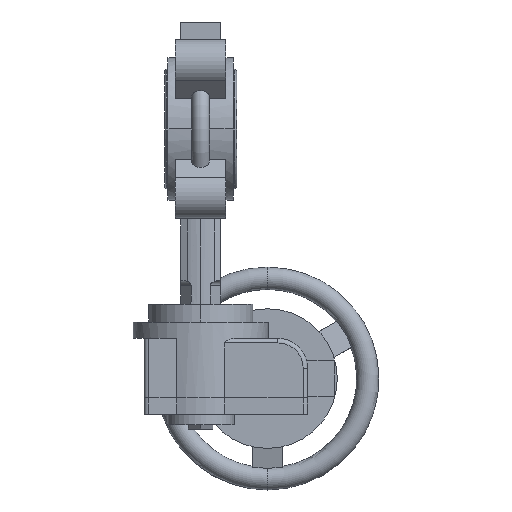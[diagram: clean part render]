
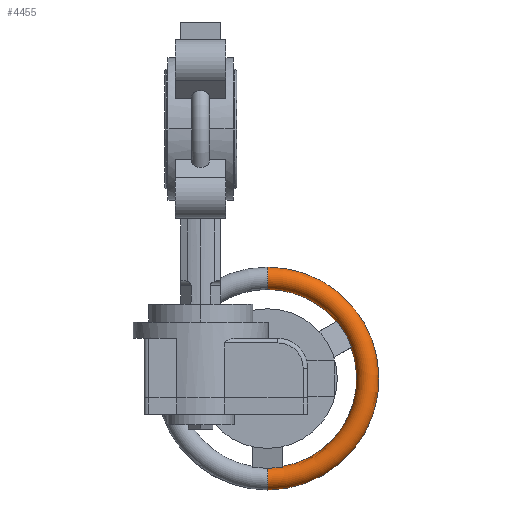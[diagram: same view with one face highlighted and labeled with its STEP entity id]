
A CAD part, left-side view. The second image highlights one B-rep face of the part: STEP entity #4455.
In plain terms, the highlighted toroidal (fillet/blend) face has major radius 67.5 mm and minor radius 7.5 mm.
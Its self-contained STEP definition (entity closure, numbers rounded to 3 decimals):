
#93 = VERTEX_POINT ( 'NONE', #6728 ) ;
#221 = EDGE_CURVE ( 'NONE', #7875, #3784, #7050, .T. ) ;
#299 = CARTESIAN_POINT ( 'NONE',  ( -162.5, 62., 28. ) ) ;
#467 = ORIENTED_EDGE ( 'NONE', *, *, #4861, .F. ) ;
#554 = B_SPLINE_CURVE_WITH_KNOTS ( 'NONE', 3,
 ( #6019, #3702, #7478, #8991, #8895, #2196, #9047, #3497 ),
 .UNSPECIFIED., .F., .F.,
 ( 4, 2, 2, 4 ),
 ( 0.047, 0.048, 0.048, 0.05 ),
 .UNSPECIFIED. ) ;
#570 = EDGE_CURVE ( 'NONE', #641, #93, #554, .T. ) ;
#600 = CARTESIAN_POINT ( 'NONE',  ( -159.729, 46.699, 38. ) ) ;
#641 = VERTEX_POINT ( 'NONE', #9852 ) ;
#767 = B_SPLINE_CURVE_WITH_KNOTS ( 'NONE', 3,
 ( #600, #9826, #3771, #3668 ),
 .UNSPECIFIED., .F., .F.,
 ( 4, 4 ),
 ( 0., 0.01 ),
 .UNSPECIFIED. ) ;
#940 = CARTESIAN_POINT ( 'NONE',  ( -161.552, -51.269, 74.284 ) ) ;
#1025 = CARTESIAN_POINT ( 'NONE',  ( -159.793, -35.752, 84.09 ) ) ;
#1196 = CARTESIAN_POINT ( 'NONE',  ( -159.921, 47.457, 28. ) ) ;
#1316 = CARTESIAN_POINT ( 'NONE',  ( -159.729, 46.699, 38. ) ) ;
#1629 = ORIENTED_EDGE ( 'NONE', *, *, #2030, .T. ) ;
#1738 = CARTESIAN_POINT ( 'NONE',  ( -159.921, -41.797, 81.185 ) ) ;
#1863 = DIRECTION ( 'NONE',  ( -1., 0., 0. ) ) ;
#1926 = DIRECTION ( 'NONE',  ( 0., -1., 0. ) ) ;
#2007 = ORIENTED_EDGE ( 'NONE', *, *, #6447, .T. ) ;
#2030 = EDGE_CURVE ( 'NONE', #4986, #5842, #6500, .T. ) ;
#2196 = CARTESIAN_POINT ( 'NONE',  ( -160.626, -34.033, 84.43 ) ) ;
#2488 = ORIENTED_EDGE ( 'NONE', *, *, #8795, .T. ) ;
#2595 = CARTESIAN_POINT ( 'NONE',  ( -161.319, 46.252, 38. ) ) ;
#2786 = CARTESIAN_POINT ( 'NONE',  ( -162.5, -13., 28. ) ) ;
#2829 = DIRECTION ( 'NONE',  ( 0., -1., 0. ) ) ;
#2919 = EDGE_CURVE ( 'NONE', #641, #4986, #3797, .T. ) ;
#2964 = CARTESIAN_POINT ( 'NONE',  ( -162.023, -51.246, 74.245 ) ) ;
#2989 = CIRCLE ( 'NONE', #4908, 75. ) ;
#3030 = AXIS2_PLACEMENT_3D ( 'NONE', #8920, #5614, #2829 ) ;
#3146 = TOROIDAL_SURFACE ( 'NONE', #8771, 67.5, 7.5 ) ;
#3389 = DIRECTION ( 'NONE',  ( -1., 0., 0. ) ) ;
#3443 = CARTESIAN_POINT ( 'NONE',  ( -162.023, 46.172, 38. ) ) ;
#3497 = CARTESIAN_POINT ( 'NONE',  ( -159.729, -34.189, 84.701 ) ) ;
#3498 = CIRCLE ( 'NONE', #9138, 7.5 ) ;
#3663 = CARTESIAN_POINT ( 'NONE',  ( -162.5, 46.161, 38. ) ) ;
#3668 = CARTESIAN_POINT ( 'NONE',  ( -159.921, 47.457, 28. ) ) ;
#3702 = CARTESIAN_POINT ( 'NONE',  ( -162.262, -33.92, 84.235 ) ) ;
#3771 = CARTESIAN_POINT ( 'NONE',  ( -159.921, 47.457, 31.343 ) ) ;
#3784 = VERTEX_POINT ( 'NONE', #7586 ) ;
#3797 = CIRCLE ( 'NONE', #8628, 60. ) ;
#4050 = CARTESIAN_POINT ( 'NONE',  ( -159.921, -46.133, 78.68 ) ) ;
#4455 = ADVANCED_FACE ( 'NONE', ( #8825 ), #3146, .T. ) ;
#4607 = CARTESIAN_POINT ( 'NONE',  ( -161.319, -51.286, 74.314 ) ) ;
#4801 = CARTESIAN_POINT ( 'NONE',  ( -159.905, -40.318, 81.966 ) ) ;
#4839 = VERTEX_POINT ( 'NONE', #1196 ) ;
#4854 = CARTESIAN_POINT ( 'NONE',  ( -162.262, 46.161, 38. ) ) ;
#4861 = EDGE_CURVE ( 'NONE', #5364, #8141, #2989, .T. ) ;
#4908 = AXIS2_PLACEMENT_3D ( 'NONE', #7196, #1863, #7997 ) ;
#4986 = VERTEX_POINT ( 'NONE', #3663 ) ;
#5003 = ORIENTED_EDGE ( 'NONE', *, *, #6712, .T. ) ;
#5171 = DIRECTION ( 'NONE',  ( -1., 0., 0. ) ) ;
#5219 = CARTESIAN_POINT ( 'NONE',  ( -162.5, -13., 28. ) ) ;
#5223 = ORIENTED_EDGE ( 'NONE', *, *, #7328, .T. ) ;
#5267 = DIRECTION ( 'NONE',  ( 0., -1., 0. ) ) ;
#5364 = VERTEX_POINT ( 'NONE', #8948 ) ;
#5425 = CARTESIAN_POINT ( 'NONE',  ( -159.729, -51.51, 74.701 ) ) ;
#5614 = DIRECTION ( 'NONE',  ( -1., 0., 0. ) ) ;
#5672 = ORIENTED_EDGE ( 'NONE', *, *, #570, .F. ) ;
#5758 = CARTESIAN_POINT ( 'NONE',  ( -159.729, 46.699, 38. ) ) ;
#5842 = VERTEX_POINT ( 'NONE', #1316 ) ;
#5984 = CARTESIAN_POINT ( 'NONE',  ( -162.262, -51.241, 74.235 ) ) ;
#6019 = CARTESIAN_POINT ( 'NONE',  ( -162.5, -33.92, 84.235 ) ) ;
#6021 = CARTESIAN_POINT ( 'NONE',  ( -162.5, -73., 28. ) ) ;
#6214 = CARTESIAN_POINT ( 'NONE',  ( -159.841, -37.291, 83.421 ) ) ;
#6244 = CIRCLE ( 'NONE', #3030, 60. ) ;
#6367 = CARTESIAN_POINT ( 'NONE',  ( -162.5, 46.161, 38. ) ) ;
#6447 = EDGE_CURVE ( 'NONE', #4839, #8141, #3498, .T. ) ;
#6451 = DIRECTION ( 'NONE',  ( 0., -1., 0. ) ) ;
#6500 = B_SPLINE_CURVE_WITH_KNOTS ( 'NONE', 3,
 ( #6367, #4854, #3443, #9442, #2595, #6516, #7928, #5758 ),
 .UNSPECIFIED., .F., .F.,
 ( 4, 2, 2, 4 ),
 ( 0.047, 0.048, 0.048, 0.05 ),
 .UNSPECIFIED. ) ;
#6516 = CARTESIAN_POINT ( 'NONE',  ( -160.626, 46.387, 38. ) ) ;
#6595 = DIRECTION ( 'NONE',  ( 0., 0., 1. ) ) ;
#6712 = EDGE_CURVE ( 'NONE', #5842, #4839, #767, .T. ) ;
#6728 = CARTESIAN_POINT ( 'NONE',  ( -159.729, -34.189, 84.701 ) ) ;
#7020 = CARTESIAN_POINT ( 'NONE',  ( -159.857, -48.888, 76.797 ) ) ;
#7050 = B_SPLINE_CURVE_WITH_KNOTS ( 'NONE', 3,
 ( #9811, #5984, #2964, #940, #4607, #8445, #9305, #5425 ),
 .UNSPECIFIED., .F., .F.,
 ( 4, 2, 2, 4 ),
 ( 0.047, 0.048, 0.048, 0.05 ),
 .UNSPECIFIED. ) ;
#7196 = CARTESIAN_POINT ( 'NONE',  ( -162.5, -13., 28. ) ) ;
#7328 = EDGE_CURVE ( 'NONE', #3784, #93, #8220, .T. ) ;
#7478 = CARTESIAN_POINT ( 'NONE',  ( -162.023, -33.926, 84.245 ) ) ;
#7586 = CARTESIAN_POINT ( 'NONE',  ( -159.729, -51.51, 74.701 ) ) ;
#7702 = CARTESIAN_POINT ( 'NONE',  ( -162.5, -51.241, 74.235 ) ) ;
#7860 = ORIENTED_EDGE ( 'NONE', *, *, #221, .T. ) ;
#7875 = VERTEX_POINT ( 'NONE', #7702 ) ;
#7877 = CARTESIAN_POINT ( 'NONE',  ( -159.729, -34.189, 84.701 ) ) ;
#7928 = CARTESIAN_POINT ( 'NONE',  ( -160.171, 46.521, 38. ) ) ;
#7997 = DIRECTION ( 'NONE',  ( 0., -1., 0. ) ) ;
#8065 = ORIENTED_EDGE ( 'NONE', *, *, #2919, .T. ) ;
#8141 = VERTEX_POINT ( 'NONE', #299 ) ;
#8170 = AXIS2_PLACEMENT_3D ( 'NONE', #9922, #9074, #9026 ) ;
#8220 = B_SPLINE_CURVE_WITH_KNOTS ( 'NONE', 3,
 ( #8686, #7020, #4050, #1738, #4801, #6214, #1025, #7877 ),
 .UNSPECIFIED., .F., .F.,
 ( 4, 2, 2, 4 ),
 ( 0., 0.01, 0.015, 0.02 ),
 .UNSPECIFIED. ) ;
#8445 = CARTESIAN_POINT ( 'NONE',  ( -160.626, -51.354, 74.43 ) ) ;
#8599 = VERTEX_POINT ( 'NONE', #6021 ) ;
#8628 = AXIS2_PLACEMENT_3D ( 'NONE', #5219, #5171, #5267 ) ;
#8657 = CIRCLE ( 'NONE', #8170, 7.5 ) ;
#8686 = CARTESIAN_POINT ( 'NONE',  ( -159.729, -51.51, 74.701 ) ) ;
#8771 = AXIS2_PLACEMENT_3D ( 'NONE', #2786, #3389, #1926 ) ;
#8795 = EDGE_CURVE ( 'NONE', #8599, #7875, #6244, .T. ) ;
#8825 = FACE_OUTER_BOUND ( 'NONE', #9113, .T. ) ;
#8842 = ORIENTED_EDGE ( 'NONE', *, *, #8868, .F. ) ;
#8868 = EDGE_CURVE ( 'NONE', #8599, #5364, #8657, .T. ) ;
#8895 = CARTESIAN_POINT ( 'NONE',  ( -161.319, -33.966, 84.314 ) ) ;
#8920 = CARTESIAN_POINT ( 'NONE',  ( -162.5, -13., 28. ) ) ;
#8948 = CARTESIAN_POINT ( 'NONE',  ( -162.5, -88., 28. ) ) ;
#8991 = CARTESIAN_POINT ( 'NONE',  ( -161.552, -33.949, 84.284 ) ) ;
#9026 = DIRECTION ( 'NONE',  ( -1., 0., 0. ) ) ;
#9047 = CARTESIAN_POINT ( 'NONE',  ( -160.171, -34.1, 84.547 ) ) ;
#9074 = DIRECTION ( 'NONE',  ( 0., 0., -1. ) ) ;
#9113 = EDGE_LOOP ( 'NONE', ( #467, #8842, #2488, #7860, #5223, #5672, #8065, #1629, #5003, #2007 ) ) ;
#9138 = AXIS2_PLACEMENT_3D ( 'NONE', #9671, #6595, #6451 ) ;
#9305 = CARTESIAN_POINT ( 'NONE',  ( -160.171, -51.421, 74.547 ) ) ;
#9442 = CARTESIAN_POINT ( 'NONE',  ( -161.552, 46.218, 38. ) ) ;
#9671 = CARTESIAN_POINT ( 'NONE',  ( -162.5, 54.5, 28. ) ) ;
#9811 = CARTESIAN_POINT ( 'NONE',  ( -162.5, -51.241, 74.235 ) ) ;
#9826 = CARTESIAN_POINT ( 'NONE',  ( -159.857, 47.204, 34.677 ) ) ;
#9852 = CARTESIAN_POINT ( 'NONE',  ( -162.5, -33.92, 84.235 ) ) ;
#9922 = CARTESIAN_POINT ( 'NONE',  ( -162.5, -80.5, 28. ) ) ;
